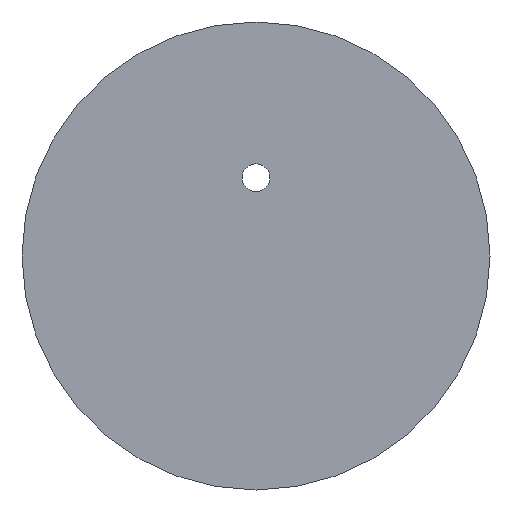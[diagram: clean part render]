
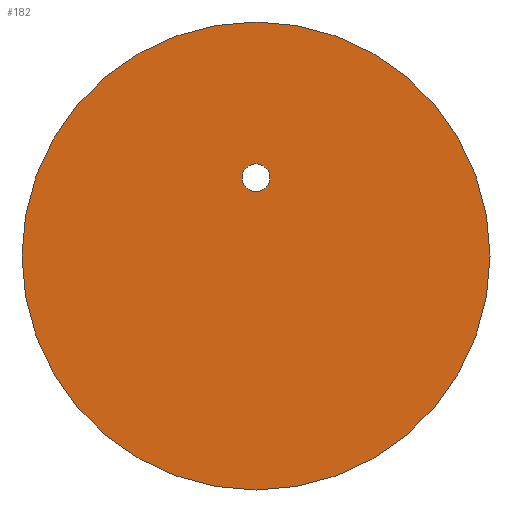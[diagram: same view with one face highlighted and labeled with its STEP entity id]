
A CAD part, left-side view. The second image highlights one B-rep face of the part: STEP entity #182.
In plain terms, the highlighted planar face has unit normal (-1, 0, 0).
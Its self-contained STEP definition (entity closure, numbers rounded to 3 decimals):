
#123=CARTESIAN_POINT('',(-2.1,0.,14.35));
#124=VERTEX_POINT('',#123);
#131=CARTESIAN_POINT('',(-2.1,0.,0.));
#132=DIRECTION('',(-0.,0.,1.));
#133=DIRECTION('',(1.,0.,0.));
#134=AXIS2_PLACEMENT_3D('',#131,#133,#132);
#135=CIRCLE('',#134,14.35);
#136=EDGE_CURVE('',#124,#124,#135,.T.);
#163=CARTESIAN_POINT('',(-2.1,0.,0.));
#164=DIRECTION('',(0.,0.,1.));
#165=DIRECTION('',(-1.,0.,0.));
#166=AXIS2_PLACEMENT_3D('',#163,#165,#164);
#167=PLANE('',#166);
#168=ORIENTED_EDGE('',*,*,#136,.F.);
#169=EDGE_LOOP('',(#168));
#170=FACE_OUTER_BOUND('',#169,.T.);
#171=CARTESIAN_POINT('',(-2.1,0.,5.65));
#172=VERTEX_POINT('',#171);
#173=CARTESIAN_POINT('',(-2.1,0.,4.8));
#174=DIRECTION('',(-0.,0.,1.));
#175=DIRECTION('',(1.,0.,0.));
#176=AXIS2_PLACEMENT_3D('',#173,#175,#174);
#177=CIRCLE('',#176,0.85);
#178=EDGE_CURVE('',#172,#172,#177,.T.);
#179=ORIENTED_EDGE('E11',*,*,#178,.T.);
#180=EDGE_LOOP('',(#179));
#181=FACE_BOUND('',#180,.T.);
#182=ADVANCED_FACE('F13',(#170,#181),#167,.T.);
